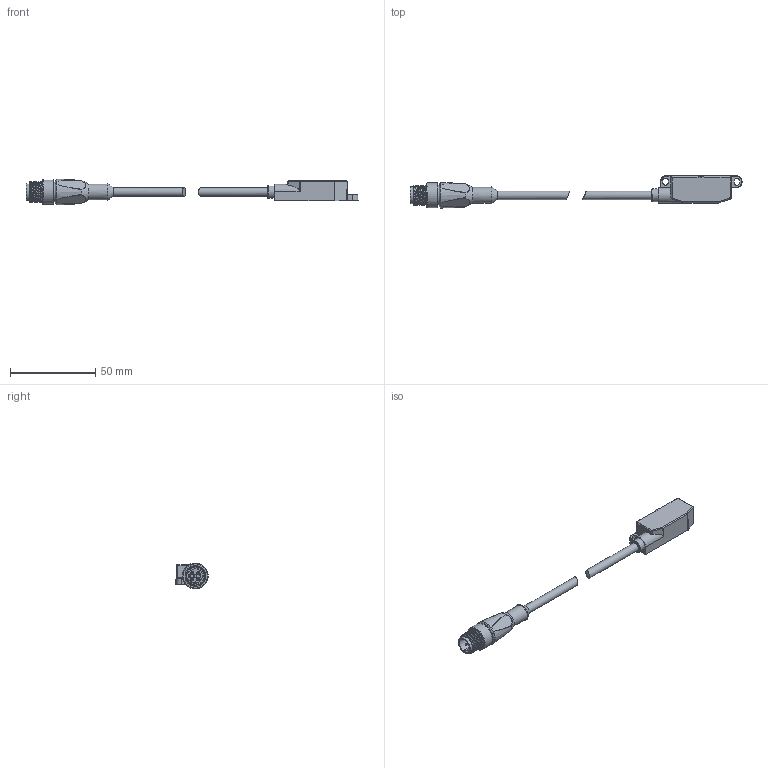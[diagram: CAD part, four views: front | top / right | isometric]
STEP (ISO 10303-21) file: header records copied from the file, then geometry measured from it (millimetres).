
FILE_DESCRIPTION(/* description */ ('CAx-IF Rec.Pracs.---Representation and Presentation of Product Manufacturing Information (PMI)---4.0---2014-10-13','CAx-IF Rec.Pracs.---3D Tessellated Geometry---0.4---2014-09-14','2;1'),/* implementation_level */ '2;1');
FILE_NAME(/* name */ 'PUB-EB200E IR-FN 8L2GN 008L',/* time_stamp */ '2025-02-04T09:30:20+01:00',/* author */ (''),/* organization */ ('Baumer'),/* preprocessor_version */ 'ST-DEVELOPER v19.4',/* originating_system */ 'Solid Edge',/* authorisation */ 'Unknown');
FILE_SCHEMA (('AP242_MANAGED_MODEL_BASED_3D_ENGINEERING_MIM_LF { 1 0 10303 442 1 1 4 }'));
Length unit declared in the file: millimetre
Products named in the file (3): D0001039007-EB200E IR-FN 8L2GN 008L; D0001019906-Gehäuse EB200E; D0001028251-Kabel A1788-CP-T0088
Assembly tree (2 placements, depth 2):
  D0001039007-EB200E IR-FN 8L2GN 008L
    D0001019906-Gehäuse EB200E
    D0001028251-Kabel A1788-CP-T0088
Bounding box: 195.29 x 18.93 x 15.05 mm (x, y, z)
Volume: 14869.3 mm3; surface area: 7624 mm2
Topology: 3 solids, 3 shells, 249 faces, 578 edges, 343 vertices
Faces by surface type: plane 92, cylinder 50, bspline 47, torus 22, sphere 21, cone 17
Full cylindrical faces by diameter (mm): 0.66 x4, 1 x4, 2 x5, 4.38 x1, 5 x2, 8.5 x1, 9.3 x1, 10 x1, 12 x1, 14.6 x1
Entity records: 10863 total; most frequent: CARTESIAN_POINT 4545, DIRECTION 1034, ORIENTED_EDGE 982, EDGE_CURVE 491, AXIS2_PLACEMENT_3D 420, EDGE_LOOP 326, FACE_BOUND 326, VERTEX_POINT 321
